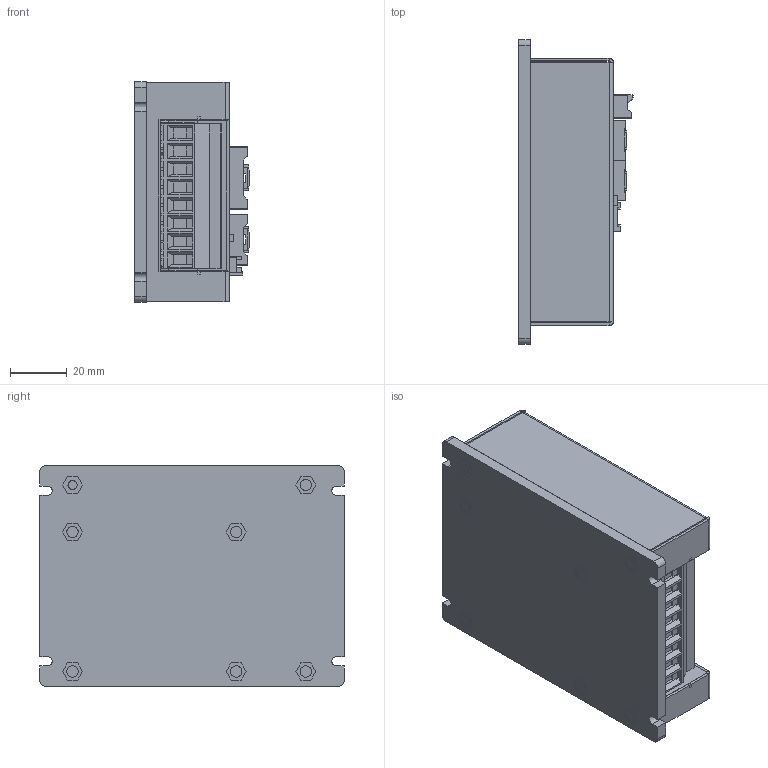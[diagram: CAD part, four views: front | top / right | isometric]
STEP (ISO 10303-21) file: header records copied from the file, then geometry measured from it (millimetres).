
FILE_DESCRIPTION((''),'2;1');
FILE_NAME('OD134_ASM','2019-10-28T09:57:38',('RD0060'),(''),'CREO PARAMETRIC BY PTC INC, 2016390','CREO PARAMETRIC BY PTC INC, 2016390','');
FILE_SCHEMA(('CONFIG_CONTROL_DESIGN'));
Length unit declared in the file: millimetre
Products named in the file (35): PCBA-QD; INDUCTANCE2; POWER; PCBB; BPCB_ASM; PCBC; 5016451620; 5016452020; CJTA2008WV-4P; BOMA; 559320530; CPCB_ASM; PCB-QD_ASM; OD134-HT; M3-8MOU; M3X22; M3X8; OD134-HT_ASM; OD134TR; ESK635V-XXP_1_1_2_1; ESK635V-XXP_1_1_2_2; ESK635V-XXP_1_1_2_3; ESK635V-XXP_1_1_2_4; ESK635V-XXP_1_1_2_5; ESK635V-XXP_1_1_2_6; ESK635V-XXP_1_1_2_7; ESK635V-XXP_1_1_2_8; ESK635V-XXP_1_1_2_9; ESK635V-XXP_1_1_2_ASM; DINKLE_ESK635V-08P_ASM; OD134S1; OD123S2; OD123S3; OD123SHS_ASM; OD134_ASM
Assembly tree (50 placements, depth 4):
  OD134_ASM
    PCB-QD_ASM
      PCBA-QD
      INDUCTANCE2
      POWER
      BPCB_ASM
        PCBB
      CPCB_ASM
        PCBC
        5016451620
        5016452020
        CJTA2008WV-4P
        BOMA
        559320530  x2
    OD134-HT_ASM
      OD134-HT
      M3-8MOU  x7
      M3X22  x3
      M3X8  x8
    OD134TR
    DINKLE_ESK635V-08P_ASM
      ESK635V-XXP_1_1_2_ASM
        ESK635V-XXP_1_1_2_1
        ESK635V-XXP_1_1_2_2
        ESK635V-XXP_1_1_2_3
        ESK635V-XXP_1_1_2_4
        ESK635V-XXP_1_1_2_5
        ESK635V-XXP_1_1_2_6
        ESK635V-XXP_1_1_2_7
        ESK635V-XXP_1_1_2_8
        ESK635V-XXP_1_1_2_9
    OD134S1
    OD123SHS_ASM
      OD123S2
      OD123S3
Bounding box: 40.2 x 107 x 77.4 mm (x, y, z)
Volume: 114293.3 mm3; surface area: 113280.6 mm2
Topology: 53 solids, 53 shells, 2507 faces, 6007 edges, 3821 vertices
Faces by surface type: plane 1938, cylinder 451, cone 90, torus 20, bspline 8
Entity records: 61291 total; most frequent: CARTESIAN_POINT 11035, DIRECTION 10237, ORIENTED_EDGE 10054, EDGE_CURVE 5027, VECTOR 4105, LINE 4105, VERTEX_POINT 3186, AXIS2_PLACEMENT_3D 3066
